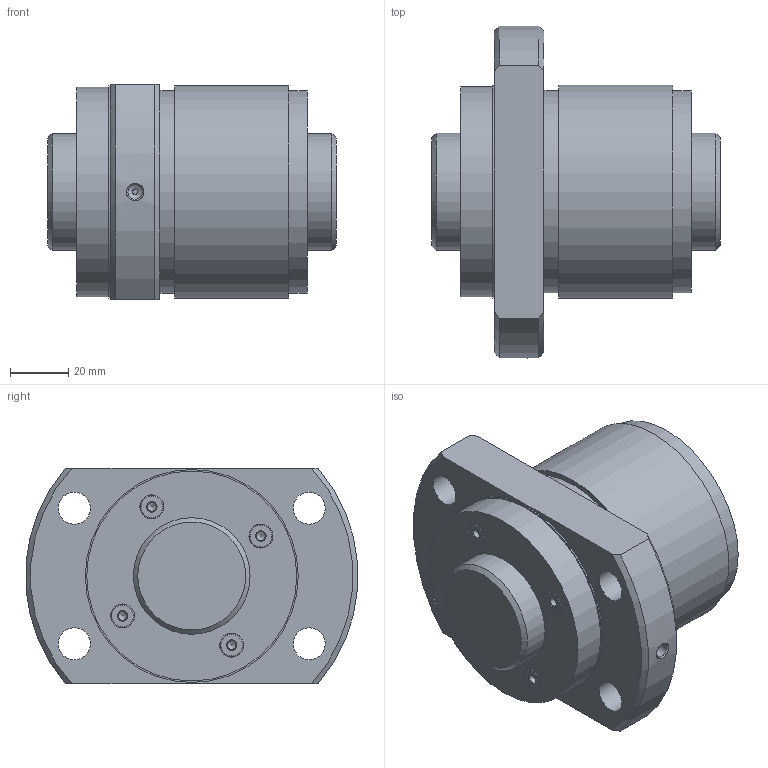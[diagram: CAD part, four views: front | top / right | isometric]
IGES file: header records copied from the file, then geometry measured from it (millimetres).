
Start section: Data from Parasolid IGES Translator 26.0.171, Copyright(c) 2006 Siemens PLM Software. All Rights Reserved.
Global section: file name: WGF4080-1G1+99LC3_0_13_0_0.igs; native system: By Siemens PLM Incorporated; preprocessor: XPlus GENERIC/IGES 26.0.171; author: Noname; organization: Noname; date: 20250116.062701; units: millimetre
Bounding box: 99 x 113.82 x 74 mm (x, y, z)
Surface area: 62029.8 mm2 (no closed solid volume)
Topology: 0 solids, 0 shells, 65 faces, 262 edges, 206 vertices
Faces by surface type: revolution 46, extrusion 19
